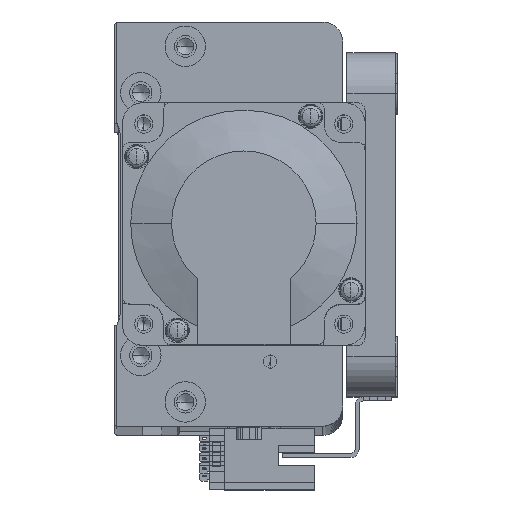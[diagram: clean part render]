
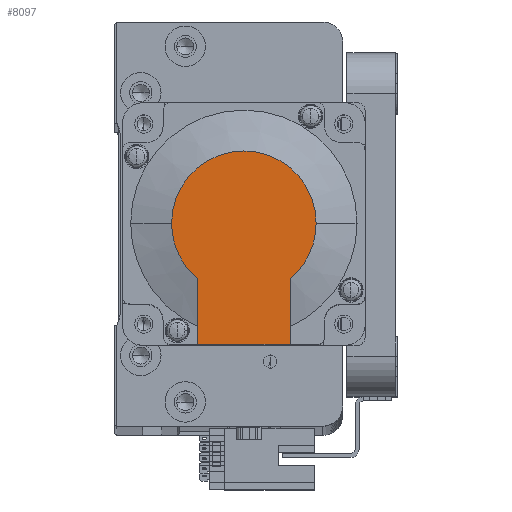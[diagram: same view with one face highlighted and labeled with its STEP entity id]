
A CAD part, top view. The second image highlights one B-rep face of the part: STEP entity #8097.
In plain terms, the highlighted planar face has unit normal (0, 0, 1) as drawn and (-1, 0, 0) by its records, which use the part's own axes.
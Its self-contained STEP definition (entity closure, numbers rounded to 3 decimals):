
#1756 = CARTESIAN_POINT ( 'NONE',  ( -118.5, 30., -11.45 ) ) ;
#2225 = DIRECTION ( 'NONE',  ( 0., -1., 0. ) ) ;
#2547 = CARTESIAN_POINT ( 'NONE',  ( -118.5, 0., 11.45 ) ) ;
#4382 = ORIENTED_EDGE ( 'NONE', *, *, #59724, .T. ) ;
#5063 = CARTESIAN_POINT ( 'NONE',  ( -118.5, 0., 17.881 ) ) ;
#6053 = VERTEX_POINT ( 'NONE', #30920 ) ;
#6496 = DIRECTION ( 'NONE',  ( -1., 0., 0. ) ) ;
#6991 = ORIENTED_EDGE ( 'NONE', *, *, #38799, .T. ) ;
#7554 = DIRECTION ( 'NONE',  ( -1., 0., 0. ) ) ;
#8097 = ADVANCED_FACE ( 'NONE', ( #17871 ), #16779, .T. ) ;
#9959 = DIRECTION ( 'NONE',  ( 0., 0., 1. ) ) ;
#9970 = AXIS2_PLACEMENT_3D ( 'NONE', #35620, #7554, #40307 ) ;
#16779 = PLANE ( 'NONE',  #9970 ) ;
#17453 = CARTESIAN_POINT ( 'NONE',  ( -118.5, 0., 0. ) ) ;
#17673 = CARTESIAN_POINT ( 'NONE',  ( -118.5, 0., -17.881 ) ) ;
#17687 = EDGE_CURVE ( 'NONE', #54729, #39481, #47015, .T. ) ;
#17871 = FACE_OUTER_BOUND ( 'NONE', #49373, .T. ) ;
#20825 = CARTESIAN_POINT ( 'NONE',  ( -118.5, 13.735, 11.45 ) ) ;
#21453 = DIRECTION ( 'NONE',  ( -1., 0., 0. ) ) ;
#22231 = DIRECTION ( 'NONE',  ( 0., 0., -1. ) ) ;
#22301 = AXIS2_PLACEMENT_3D ( 'NONE', #49344, #21453, #54003 ) ;
#23246 = VERTEX_POINT ( 'NONE', #17673 ) ;
#24592 = VECTOR ( 'NONE', #9959, 1000. ) ;
#29851 = LINE ( 'NONE', #58237, #42265 ) ;
#30920 = CARTESIAN_POINT ( 'NONE',  ( -118.5, 13.735, -11.45 ) ) ;
#31022 = ORIENTED_EDGE ( 'NONE', *, *, #57299, .F. ) ;
#31907 = VERTEX_POINT ( 'NONE', #5063 ) ;
#34201 = EDGE_CURVE ( 'NONE', #31907, #39481, #55361, .T. ) ;
#34564 = CARTESIAN_POINT ( 'NONE',  ( -118.5, 0., 0. ) ) ;
#35620 = CARTESIAN_POINT ( 'NONE',  ( -118.5, -8.941, 0. ) ) ;
#37999 = CARTESIAN_POINT ( 'NONE',  ( -118.5, 30., 25. ) ) ;
#38799 = EDGE_CURVE ( 'NONE', #6053, #23246, #42576, .T. ) ;
#39283 = DIRECTION ( 'NONE',  ( 0., 0., -1. ) ) ;
#39481 = VERTEX_POINT ( 'NONE', #20825 ) ;
#40307 = DIRECTION ( 'NONE',  ( 0., 0., 1. ) ) ;
#41082 = EDGE_CURVE ( 'NONE', #23246, #31907, #42835, .T. ) ;
#42265 = VECTOR ( 'NONE', #2225, 1000. ) ;
#42576 = CIRCLE ( 'NONE', #45921, 17.881 ) ;
#42835 = CIRCLE ( 'NONE', #22301, 17.881 ) ;
#45921 = AXIS2_PLACEMENT_3D ( 'NONE', #17453, #50105, #22231 ) ;
#47015 = LINE ( 'NONE', #2547, #59422 ) ;
#47344 = AXIS2_PLACEMENT_3D ( 'NONE', #34564, #6496, #39283 ) ;
#49344 = CARTESIAN_POINT ( 'NONE',  ( -118.5, 0., 0. ) ) ;
#49373 = EDGE_LOOP ( 'NONE', ( #4382, #6991, #55297, #60477, #51233, #31022 ) ) ;
#49375 = LINE ( 'NONE', #37999, #24592 ) ;
#50105 = DIRECTION ( 'NONE',  ( -1., 0., 0. ) ) ;
#51233 = ORIENTED_EDGE ( 'NONE', *, *, #17687, .F. ) ;
#51959 = CARTESIAN_POINT ( 'NONE',  ( -118.5, 30., 11.45 ) ) ;
#54003 = DIRECTION ( 'NONE',  ( 0., 0., -1. ) ) ;
#54729 = VERTEX_POINT ( 'NONE', #51959 ) ;
#55297 = ORIENTED_EDGE ( 'NONE', *, *, #41082, .T. ) ;
#55361 = CIRCLE ( 'NONE', #47344, 17.881 ) ;
#57299 = EDGE_CURVE ( 'NONE', #60377, #54729, #49375, .T. ) ;
#58237 = CARTESIAN_POINT ( 'NONE',  ( -118.5, -8.941, -11.45 ) ) ;
#58356 = DIRECTION ( 'NONE',  ( 0., -1., 0. ) ) ;
#59422 = VECTOR ( 'NONE', #58356, 1000. ) ;
#59724 = EDGE_CURVE ( 'NONE', #60377, #6053, #29851, .T. ) ;
#60377 = VERTEX_POINT ( 'NONE', #1756 ) ;
#60477 = ORIENTED_EDGE ( 'NONE', *, *, #34201, .T. ) ;
